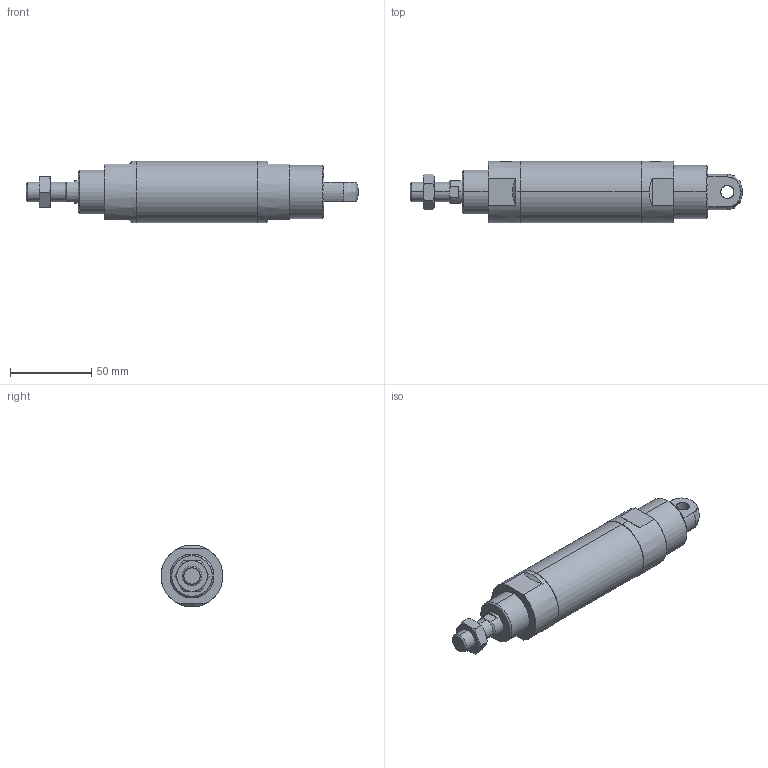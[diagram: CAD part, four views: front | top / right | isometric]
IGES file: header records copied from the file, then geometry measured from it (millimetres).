
Start section: SolidWorks IGES file using analytic representation for surfaces
Global section: file name: C:\Users\Toshiba\Desktop\J#2-32-25-C.IGS; native system: SolidWorks 2014; preprocessor: SolidWorks 2014; author: Toshiba; date: 160308.153000; units: millimetre
Bounding box: 204 x 38 x 38 mm (x, y, z)
Surface area: 24024.2 mm2 (no closed solid volume)
Topology: 0 solids, 0 shells, 81 faces, 1552 edges, 1548 vertices
Faces by surface type: bspline 42, revolution 39
